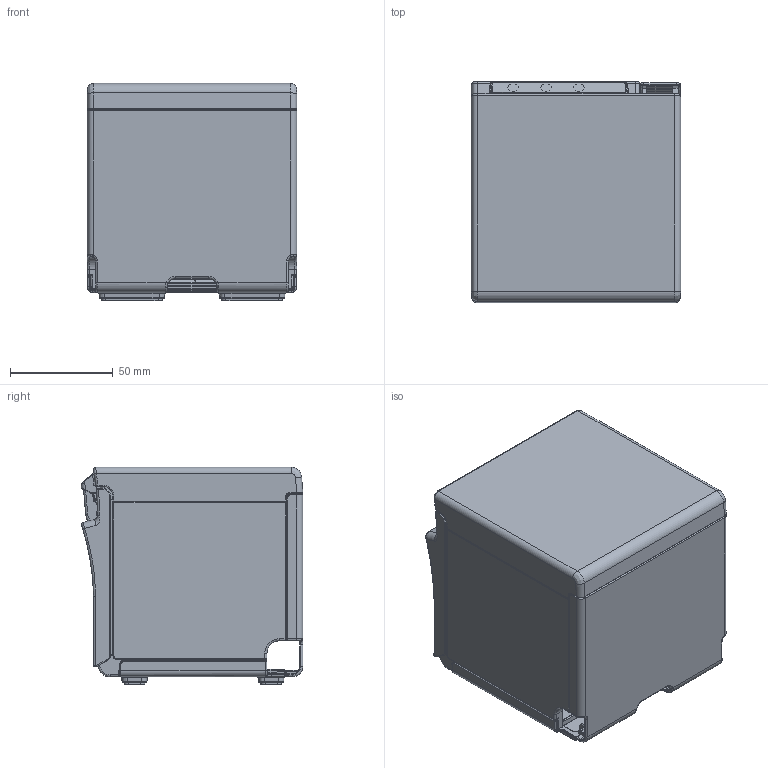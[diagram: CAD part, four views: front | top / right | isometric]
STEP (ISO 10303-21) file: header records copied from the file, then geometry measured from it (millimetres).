
FILE_DESCRIPTION((''),'2;1');
FILE_NAME('TM-M10_FRONT_CLOSE_250123_SW','2025-01-23T11:28:17',('0092109'),(''),'CREO PARAMETRIC BY PTC INC, 2022281','CREO PARAMETRIC BY PTC INC, 2022281','');
FILE_SCHEMA(('AUTOMOTIVE_DESIGN { 1 0 10303 214 1 1 1 1 }'));
Products named in the file (1): TM-M10_FRONT_CLOSE_250123_SW
Bounding box: 102 x 107.98 x 105.8 mm (x, y, z)
Surface area: 154789.8 mm2 (no closed solid volume)
Topology: 0 solids, 24 shells, 2373 faces, 6645 edges, 4240 vertices
Faces by surface type: plane 1183, cylinder 764, torus 251, bspline 105, cone 43, sphere 26, extrusion 1
Entity records: 84945 total; most frequent: CARTESIAN_POINT 23896, DIRECTION 12706, ORIENTED_EDGE 12610, EDGE_CURVE 6645, VECTOR 4334, LINE 4333, VERTEX_POINT 4240, AXIS2_PLACEMENT_3D 4186
